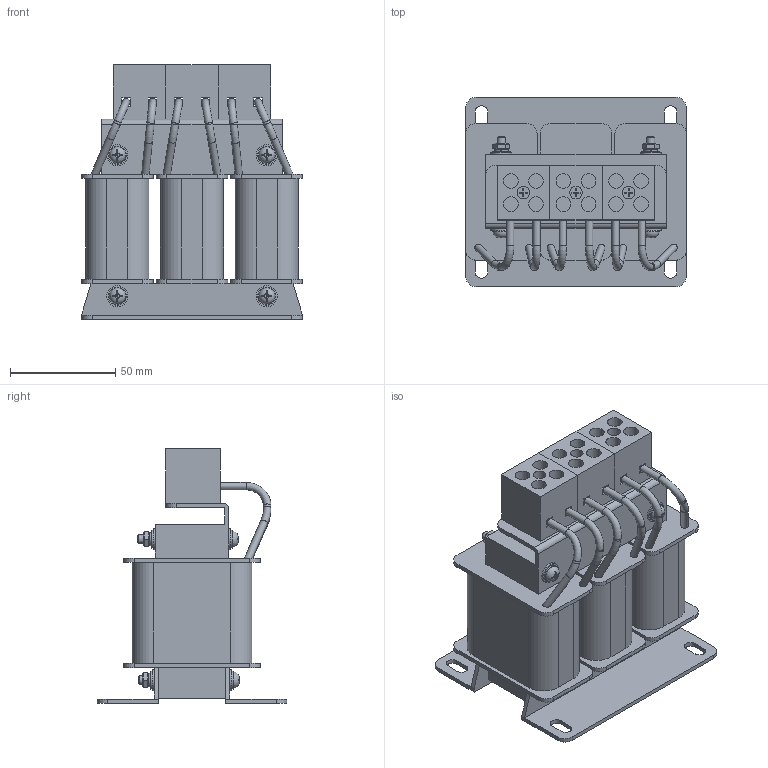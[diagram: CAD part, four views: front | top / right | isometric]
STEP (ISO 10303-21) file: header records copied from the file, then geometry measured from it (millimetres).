
FILE_DESCRIPTION(('STEP AP203'), '1');
FILE_NAME('栖闉罻 _ IMF-4.0_8.8-4', '', ('UNSPECIFIED'), ('UNSPECIFIED'), 'ASCON STEP Converter 1.6', 'ASCON Math Kernel', '');
FILE_SCHEMA(('CONFIG_CONTROL_DESIGN'));
Length unit declared in the file: millimetre
Products named in the file (13): IMF-4.0_8.8-4
Assembly tree (45 placements, depth 2):
  IMF-4.0_8.8-4
    IMF-4.0_8.8-4
    IMF-4.0_8.8-4  x2
    IMF-4.0_8.8-4  x6
    IMF-4.0_8.8-4  x3
    IMF-4.0_8.8-4
    IMF-4.0_8.8-4  x3
    IMF-4.0_8.8-4
    IMF-4.0_8.8-4  x8
    IMF-4.0_8.8-4  x8
    IMF-4.0_8.8-4  x4
    IMF-4.0_8.8-4  x4
    IMF-4.0_8.8-4  x4
Bounding box: 105 x 90 x 121 mm (x, y, z)
Volume: 421650.4 mm3; surface area: 133239.4 mm2
Topology: 50 solids, 50 shells, 609 faces, 1355 edges, 874 vertices
Faces by surface type: plane 440, cylinder 133, torus 24, cone 12
Full cylindrical faces by diameter (mm): 3.5 x18, 4 x32, 6 x3, 7 x12, 8.6 x8, 10 x8
Entity records: 7580 total; most frequent: CARTESIAN_POINT 1414, DIRECTION 1030, ORIENTED_EDGE 842, EDGE_CURVE 421, AXIS2_PLACEMENT_3D 372, VERTEX_POINT 301, EDGE_LOOP 300, LINE 286
